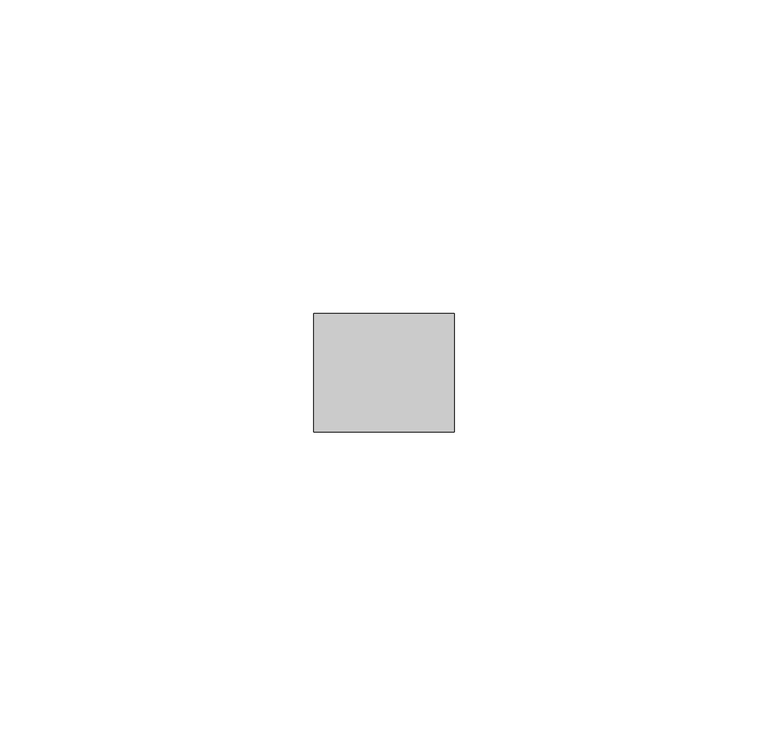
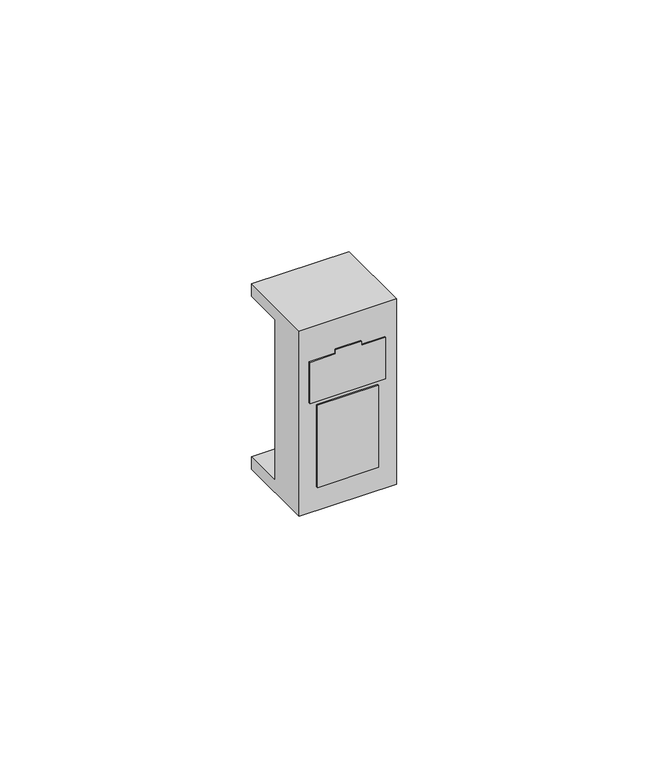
"""IFC4 building model written with IfcOpenShell, lengths in millimetres: proxy geometry."""

from ifc_helpers import new_model, si_unit, frame, origin, place, context, project, spatial, polyline, outline, extrude, faceted_brep, source, transform, mapped, element, save


def electrical_fixtures_06755e86(model_context):
    return source(origin(), model_context, "Body", "SolidModel", [
        extrude(outline(polyline([(3.9878881, 19.9), (13.9878881, 19.9), (13.9878881, 14.4016824), (14.9878881, 14.4016824), (14.9878881, 8.4016824), (13.9878881, 8.4016824), (13.9878881, 2.5), (3.9878881, 2.5), (3.9878881, 19.9)])), frame((0.0, -7.0, 0.0), z_axis=(0.0, 1.0, 0.0), x_axis=(0.0, 0.0, 1.0)), (0.0, 0.0, 1.0), 1.0),
        extrude(outline(polyline([(18.2, -7.0), (4.2, -7.0), (4.2, -6.0), (18.2, -6.0), (18.2, -7.0)])), frame((0.0, 0.0, -16.95), z_axis=(0.0, 0.0, 1.0), x_axis=(1.0, 0.0, 0.0)), (0.0, 0.0, 1.0), 19.9378881),
        extrude(outline(polyline([(19.9, 6.1), (19.9, 2.5), (2.5, 2.5), (2.5, 6.1), (19.9, 6.1)])), frame((0.0, 0.0, -16.95), z_axis=(0.0, 0.0, 1.0), x_axis=(1.0, 0.0, 0.0)), (0.0, 0.0, 1.0), 25.609562),
        faceted_brep([(22.4, 11.9, 22.45), (22.4, 11.9, 19.45), (0.0, 11.9, 19.45), (0.0, 11.9, 22.45), (22.4, 2.5, 19.45), (0.0, 2.5, 19.45), (22.4, -7.0, -22.45), (22.4, -7.0, 22.45), (0.0, -7.0, 22.45), (0.0, -7.0, -22.45), (19.9, -7.0, 13.9878881), (19.9, -7.0, 3.9878881), (2.5, -7.0, 3.9878881), (2.5, -7.0, 13.9878881), (8.4016824, -7.0, 13.9878881), (8.4016824, -7.0, 14.9878881), (14.4016824, -7.0, 14.9878881), (14.4016824, -7.0, 13.9878881), (4.2, -7.0, 2.9878881), (18.2, -7.0, 2.9878881), (18.2, -7.0, -16.95), (4.2, -7.0, -16.95), (22.4, 2.5, -19.45), (0.0, 2.5, -19.45), (22.4, 11.9, -22.45), (22.4, 11.9, -19.45), (0.0, 11.9, -19.45), (0.0, 11.9, -22.45), (19.9, -3.5, 3.9878881), (19.9, -3.5, 13.9878881), (14.4016824, -3.5, 13.9878881), (14.4016824, -3.5, 14.9878881), (8.4016824, -3.5, 14.9878881), (8.4016824, -3.5, 13.9878881), (2.5, -3.5, 13.9878881), (2.5, -3.5, 3.9878881), (18.2, -3.5, 2.9878881), (4.2, -3.5, 2.9878881), (4.2, -3.5, -16.95), (18.2, -3.5, -16.95)], [[[0, 1, 2, 3]], [[1, 4, 5, 2]], [[6, 7, 8, 9], [10, 11, 12, 13, 14, 15, 16, 17], [18, 19, 20, 21]], [[5, 4, 22, 23]], [[7, 6, 24, 25, 22, 4, 1, 0]], [[8, 7, 0, 3]], [[9, 8, 3, 2, 5, 23, 26, 27]], [[24, 6, 9, 27]], [[25, 24, 27, 26]], [[22, 25, 26, 23]], [[28, 29, 30, 31, 32, 33, 34, 35]], [[36, 37, 38, 39]], [[29, 28, 11, 10]], [[30, 29, 10, 17]], [[31, 30, 17, 16]], [[32, 31, 16, 15]], [[33, 32, 15, 14]], [[34, 33, 14, 13]], [[35, 34, 13, 12]], [[28, 35, 12, 11]], [[37, 36, 19, 18]], [[38, 37, 18, 21]], [[39, 38, 21, 20]], [[36, 39, 20, 19]]]),
    ])


if __name__ == "__main__":
    model = new_model("IFC4")
    model_context = context("Model", 3, world=origin())
    ifc_project = project(units=[si_unit("LENGTHUNIT", "METRE", prefix="MILLI")], contexts=[model_context])
    site = spatial("IfcSite", under=ifc_project)
    building = spatial("IfcBuilding", under=site)
    placement = place(None, origin())
    electrical_fixtures_shape = electrical_fixtures_06755e86(model_context)
    element("IfcBuildingElementProxy", 1, Name="Electrical Fixtures", at=placement, inside=building, context=model_context, shape_type="MappedRepresentation", body=[
        mapped(electrical_fixtures_shape, transform((0.0, 0.0, 0.0), x_axis=(1.0, 0.0, 0.0), y_axis=(0.0, 1.0, 0.0), z_axis=(0.0, 0.0, 1.0))),
    ])
    save(model, "model.ifc")
